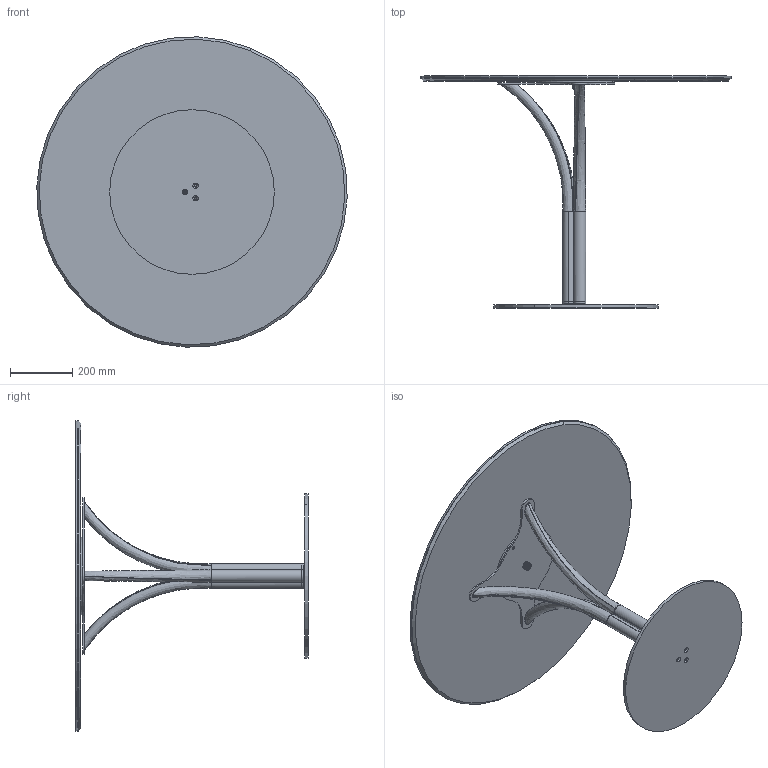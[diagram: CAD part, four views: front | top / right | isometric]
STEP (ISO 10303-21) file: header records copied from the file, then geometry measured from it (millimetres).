
FILE_DESCRIPTION (( 'STEP AP203' ), '1' );
FILE_NAME ('DB30C.STEP', '2024-08-08T08:13:31', ( '' ), ( '' ), 'SwSTEP 2.0', 'SolidWorks 2022', '' );
FILE_SCHEMA (( 'CONFIG_CONTROL_DESIGN' ));
Length unit declared in the file: millimetre
Products named in the file (10): CBS000000BAS-00-BISTRO PIASTRA INFERIORE_D.530; DB30C; K1XCMXX-00-Piani Rotondi in ceramica_D.1000; DOD000000_02-00-Gamba curvata per DODO''_Default<A macchina>; KXXCXX-00-Piani Rotondi in ceramica CON PIASTRA_K03P PIANO CERAMICA D.100cm; P0000005-00-FILETTO M24 CON FORO H.20mm; DOD000000_01-01-poggiapiano; P0000003-00-STAFFA DI FISSAGGIO DIAMETRO 250_P0000003-250mm normale; DOD000000-01-DODO BASE ; M8xXXmm_M8X35mm
Assembly tree (11 placements, depth 3):
  DB30C
    CBS000000BAS-00-BISTRO PIASTRA INFERIORE_D.530
    DOD000000-01-DODO BASE 
      DOD000000_02-00-Gamba curvata per DODO''_Default<A macchina>  x3
      DOD000000_01-01-poggiapiano
    KXXCXX-00-Piani Rotondi in ceramica CON PIASTRA_K03P PIANO CERAMICA D.100cm
      K1XCMXX-00-Piani Rotondi in ceramica_D.1000
      P0000003-00-STAFFA DI FISSAGGIO DIAMETRO 250_P0000003-250mm normale
      M8xXXmm_M8X35mm
      P0000005-00-FILETTO M24 CON FORO H.20mm
Bounding box: 999.3 x 747 x 999.3 mm (x, y, z)
Volume: 15864301.4 mm3; surface area: 4420042.9 mm2
Topology: 13 solids, 13 shells, 174 faces, 415 edges, 266 vertices
Faces by surface type: cylinder 90, plane 44, cone 21, bspline 15, torus 4
Entity records: 10819 total; most frequent: CARTESIAN_POINT 6437, DIRECTION 700, ORIENTED_EDGE 682, EDGE_CURVE 341, AXIS2_PLACEMENT_3D 291, VERTEX_POINT 218, EDGE_LOOP 169, ADVANCED_FACE 142
